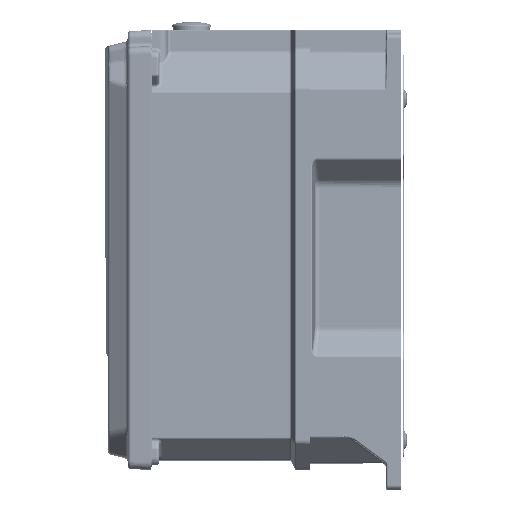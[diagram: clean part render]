
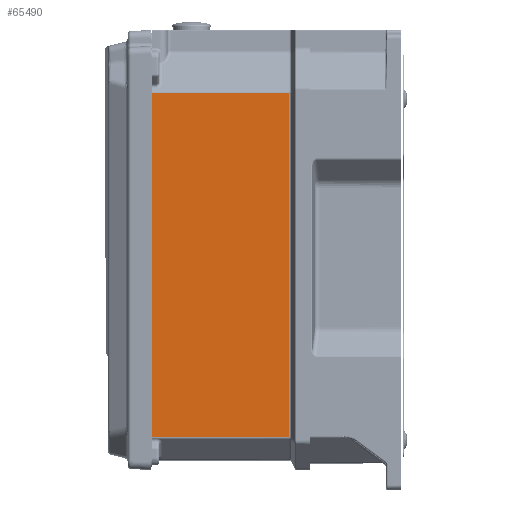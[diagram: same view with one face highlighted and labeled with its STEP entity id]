
A CAD part, left-side view. The second image highlights one B-rep face of the part: STEP entity #65490.
In plain terms, the highlighted planar face has unit normal (-1, 0, 0).
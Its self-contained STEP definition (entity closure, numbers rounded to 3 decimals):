
#26586=DIRECTION('',(0.,-1.,0.));
#26587=VECTOR('',#26586,89.343);
#26588=CARTESIAN_POINT('',(-91.,164.3,-115.479));
#26589=LINE('',#26588,#26587);
#26620=DIRECTION('',(0.,0.,-1.));
#26621=VECTOR('',#26620,224.308);
#26622=CARTESIAN_POINT('',(-91.,164.3,108.829));
#26623=LINE('',#26622,#26621);
#26675=DIRECTION('',(0.,1.,0.));
#26676=VECTOR('',#26675,89.343);
#26677=CARTESIAN_POINT('',(-91.,74.957,
108.829));
#26678=LINE('',#26677,#26676);
#55660=CARTESIAN_POINT('',(-91.,74.957,
-115.479));
#55661=CARTESIAN_POINT('',(-91.,74.964,
-115.377));
#55662=CARTESIAN_POINT('',(-91.,74.975,
-115.174));
#55663=CARTESIAN_POINT('',(-91.,74.984,
-114.869));
#55664=CARTESIAN_POINT('',(-91.,74.987,
-114.667));
#55665=CARTESIAN_POINT('',(-91.,74.987,
-114.566));
#55686=DIRECTION('',(0.,0.,1.));
#55687=VECTOR('',#55686,222.481);
#55688=CARTESIAN_POINT('',(-91.,74.987,
-114.566));
#55689=LINE('',#55688,#55687);
#55700=CARTESIAN_POINT('',(-91.,74.987,
107.916));
#55701=CARTESIAN_POINT('',(-91.,74.987,
108.017));
#55702=CARTESIAN_POINT('',(-91.,74.984,
108.22));
#55703=CARTESIAN_POINT('',(-91.,74.975,
108.524));
#55704=CARTESIAN_POINT('',(-91.,74.964,
108.727));
#55705=CARTESIAN_POINT('',(-91.,74.957,
108.829));
#59460=CARTESIAN_POINT('',(-91.,164.3,-115.479));
#59461=VERTEX_POINT('',#59460);
#59462=CARTESIAN_POINT('',(-91.,74.957,
-115.479));
#59463=VERTEX_POINT('',#59462);
#59467=CARTESIAN_POINT('',(-91.,164.3,108.829));
#59468=VERTEX_POINT('',#59467);
#59469=CARTESIAN_POINT('',(-91.,74.957,
108.829));
#59470=VERTEX_POINT('',#59469);
#59471=VERTEX_POINT('',#55700);
#59472=CARTESIAN_POINT('',(-91.,74.987,
-114.566));
#59473=VERTEX_POINT('',#59472);
#65472=CARTESIAN_POINT('',(-91.,167.,109.658));
#65473=DIRECTION('',(1.,0.,0.));
#65474=DIRECTION('',(0.,0.,-1.));
#65475=AXIS2_PLACEMENT_3D('',#65472,#65473,#65474);
#65476=PLANE('',#65475);
#65478=ORIENTED_EDGE('',*,*,#65477,.F.);
#65480=ORIENTED_EDGE('',*,*,#65479,.F.);
#65482=ORIENTED_EDGE('',*,*,#65481,.F.);
#65484=ORIENTED_EDGE('',*,*,#65483,.F.);
#65486=ORIENTED_EDGE('',*,*,#65485,.F.);
#65487=ORIENTED_EDGE('',*,*,#65460,.F.);
#65488=EDGE_LOOP('',(#65478,#65480,#65482,#65484,#65486,#65487));
#65489=FACE_OUTER_BOUND('',#65488,.F.);
#55666=B_SPLINE_CURVE_WITH_KNOTS('',3,(#55660,#55661,#55662,#55663,#55664,
#55665),.UNSPECIFIED.,.F.,.F.,(4,1,1,4),(0.,0.333,
0.667,1.),.UNSPECIFIED.);
#55706=B_SPLINE_CURVE_WITH_KNOTS('',3,(#55700,#55701,#55702,#55703,#55704,
#55705),.UNSPECIFIED.,.F.,.F.,(4,1,1,4),(0.,0.333,
0.667,1.),.UNSPECIFIED.);
#65460=EDGE_CURVE('',#59461,#59463,#26589,.T.);
#65477=EDGE_CURVE('',#59468,#59461,#26623,.T.);
#65479=EDGE_CURVE('',#59470,#59468,#26678,.T.);
#65481=EDGE_CURVE('',#59471,#59470,#55706,.T.);
#65483=EDGE_CURVE('',#59473,#59471,#55689,.T.);
#65485=EDGE_CURVE('',#59463,#59473,#55666,.T.);
#65490=ADVANCED_FACE('',(#65489),#65476,.F.);
